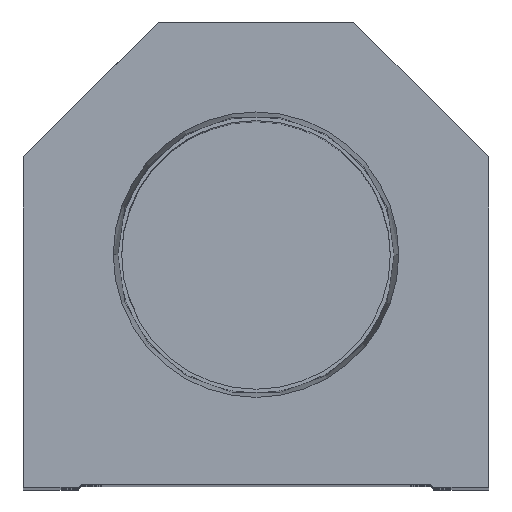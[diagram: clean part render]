
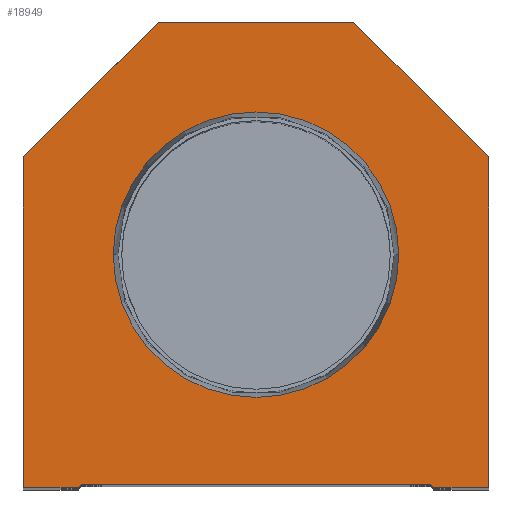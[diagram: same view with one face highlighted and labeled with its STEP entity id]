
A CAD part, top view. The second image highlights one B-rep face of the part: STEP entity #18949.
In plain terms, the highlighted planar face has unit normal (0, 0, 1).
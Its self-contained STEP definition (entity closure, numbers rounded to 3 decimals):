
#15 = CARTESIAN_POINT ( 'NONE',  ( 0., 38.1, 0. ) ) ;
#359 = VECTOR ( 'NONE', #9752, 1000. ) ;
#437 = ORIENTED_EDGE ( 'NONE', *, *, #6802, .T. ) ;
#443 = DIRECTION ( 'NONE',  ( 1., 0., 0. ) ) ;
#518 = CARTESIAN_POINT ( 'NONE',  ( -23.374, 38.1, 0. ) ) ;
#815 = CARTESIAN_POINT ( 'NONE',  ( -29.1, 0., 0. ) ) ;
#938 = LINE ( 'NONE', #18963, #4942 ) ;
#1002 = CARTESIAN_POINT ( 'NONE',  ( 14.55, 14.55, 0. ) ) ;
#1271 = EDGE_CURVE ( 'NONE', #19298, #7976, #2145, .T. ) ;
#1443 = CARTESIAN_POINT ( 'NONE',  ( -38.1, 0., 0. ) ) ;
#1507 = ORIENTED_EDGE ( 'NONE', *, *, #18216, .T. ) ;
#1981 = VERTEX_POINT ( 'NONE', #14295 ) ;
#2145 = LINE ( 'NONE', #8215, #19285 ) ;
#2480 = VECTOR ( 'NONE', #7371, 1000. ) ;
#3041 = VERTEX_POINT ( 'NONE', #13566 ) ;
#3265 = ORIENTED_EDGE ( 'NONE', *, *, #18426, .T. ) ;
#3870 = EDGE_CURVE ( 'NONE', #8238, #9024, #18817, .T. ) ;
#4200 = VERTEX_POINT ( 'NONE', #5078 ) ;
#4548 = LINE ( 'NONE', #1443, #17737 ) ;
#4621 = DIRECTION ( 'NONE',  ( -0.707, -0.707, 0. ) ) ;
#4795 = VERTEX_POINT ( 'NONE', #815 ) ;
#4835 = EDGE_CURVE ( 'NONE', #1981, #17531, #6424, .T. ) ;
#4942 = VECTOR ( 'NONE', #11675, 1000. ) ;
#4987 = CIRCLE ( 'NONE', #19166, 23.374 ) ;
#4996 = LINE ( 'NONE', #10941, #9457 ) ;
#5078 = CARTESIAN_POINT ( 'NONE',  ( 38.1, 0., 0. ) ) ;
#5182 = EDGE_CURVE ( 'NONE', #7976, #13456, #938, .T. ) ;
#5341 = VECTOR ( 'NONE', #13564, 1000. ) ;
#5361 = DIRECTION ( 'NONE',  ( 0., 0., 1. ) ) ;
#5688 = ORIENTED_EDGE ( 'NONE', *, *, #7356, .T. ) ;
#5706 = ORIENTED_EDGE ( 'NONE', *, *, #1271, .T. ) ;
#6141 = EDGE_CURVE ( 'NONE', #17531, #1981, #4987, .T. ) ;
#6424 = CIRCLE ( 'NONE', #7961, 23.374 ) ;
#6802 = EDGE_CURVE ( 'NONE', #18079, #4200, #16814, .T. ) ;
#6835 = ORIENTED_EDGE ( 'NONE', *, *, #3870, .T. ) ;
#7236 = VECTOR ( 'NONE', #4621, 1000. ) ;
#7356 = EDGE_CURVE ( 'NONE', #15404, #4795, #13156, .T. ) ;
#7371 = DIRECTION ( 'NONE',  ( 0.707, -0.707, 0. ) ) ;
#7519 = DIRECTION ( 'NONE',  ( 0., -1., 0. ) ) ;
#7543 = CARTESIAN_POINT ( 'NONE',  ( 29.1, 0., 0. ) ) ;
#7961 = AXIS2_PLACEMENT_3D ( 'NONE', #15, #13249, #16287 ) ;
#7976 = VERTEX_POINT ( 'NONE', #8772 ) ;
#8215 = CARTESIAN_POINT ( 'NONE',  ( 38.1, 54.1, 0. ) ) ;
#8238 = VERTEX_POINT ( 'NONE', #16002 ) ;
#8289 = EDGE_LOOP ( 'NONE', ( #5688, #13877, #6835, #3265, #437, #16366, #5706, #12833, #1507, #16547 ) ) ;
#8563 = LINE ( 'NONE', #1002, #2480 ) ;
#8772 = CARTESIAN_POINT ( 'NONE',  ( 16., 76.2, 0. ) ) ;
#8885 = CARTESIAN_POINT ( 'NONE',  ( 38.1, 54.1, 0. ) ) ;
#8953 = EDGE_LOOP ( 'NONE', ( #14411, #9329 ) ) ;
#9024 = VERTEX_POINT ( 'NONE', #11605 ) ;
#9329 = ORIENTED_EDGE ( 'NONE', *, *, #6141, .F. ) ;
#9457 = VECTOR ( 'NONE', #9749, 1000. ) ;
#9749 = DIRECTION ( 'NONE',  ( 0., 1., 0. ) ) ;
#9752 = DIRECTION ( 'NONE',  ( 1., 0., 0. ) ) ;
#9872 = DIRECTION ( 'NONE',  ( 0., 0., 1. ) ) ;
#9936 = FACE_OUTER_BOUND ( 'NONE', #8289, .T. ) ;
#10113 = PLANE ( 'NONE',  #16435 ) ;
#10670 = CARTESIAN_POINT ( 'NONE',  ( -38.1, 54.1, 0. ) ) ;
#10941 = CARTESIAN_POINT ( 'NONE',  ( 38.1, 0., 0. ) ) ;
#11228 = CARTESIAN_POINT ( 'NONE',  ( -28.6, 0.5, 0. ) ) ;
#11605 = CARTESIAN_POINT ( 'NONE',  ( 28.6, 0.5, 0. ) ) ;
#11675 = DIRECTION ( 'NONE',  ( -1., 0., 0. ) ) ;
#12833 = ORIENTED_EDGE ( 'NONE', *, *, #5182, .T. ) ;
#12950 = CARTESIAN_POINT ( 'NONE',  ( 0., 38.1, 0. ) ) ;
#13013 = DIRECTION ( 'NONE',  ( 1., 0., 0. ) ) ;
#13156 = LINE ( 'NONE', #15265, #13796 ) ;
#13249 = DIRECTION ( 'NONE',  ( 0., 0., 1. ) ) ;
#13385 = VECTOR ( 'NONE', #443, 1000. ) ;
#13456 = VERTEX_POINT ( 'NONE', #18836 ) ;
#13564 = DIRECTION ( 'NONE',  ( 0.707, 0.707, 0. ) ) ;
#13566 = CARTESIAN_POINT ( 'NONE',  ( -38.1, 54.1, 0. ) ) ;
#13796 = VECTOR ( 'NONE', #19113, 1000. ) ;
#13877 = ORIENTED_EDGE ( 'NONE', *, *, #16489, .T. ) ;
#14295 = CARTESIAN_POINT ( 'NONE',  ( 23.374, 38.1, 0. ) ) ;
#14411 = ORIENTED_EDGE ( 'NONE', *, *, #4835, .F. ) ;
#14659 = DIRECTION ( 'NONE',  ( -0.707, 0.707, 0. ) ) ;
#15265 = CARTESIAN_POINT ( 'NONE',  ( -28.6, 0., 0. ) ) ;
#15404 = VERTEX_POINT ( 'NONE', #16598 ) ;
#15899 = DIRECTION ( 'NONE',  ( 1., 0., 0. ) ) ;
#16002 = CARTESIAN_POINT ( 'NONE',  ( -28.6, 0.5, 0. ) ) ;
#16068 = EDGE_CURVE ( 'NONE', #3041, #15404, #4548, .T. ) ;
#16287 = DIRECTION ( 'NONE',  ( 1., 0., 0. ) ) ;
#16366 = ORIENTED_EDGE ( 'NONE', *, *, #17906, .T. ) ;
#16435 = AXIS2_PLACEMENT_3D ( 'NONE', #19267, #5361, #13013 ) ;
#16489 = EDGE_CURVE ( 'NONE', #4795, #8238, #17967, .T. ) ;
#16501 = CARTESIAN_POINT ( 'NONE',  ( -14.55, 14.55, 0. ) ) ;
#16547 = ORIENTED_EDGE ( 'NONE', *, *, #16068, .T. ) ;
#16598 = CARTESIAN_POINT ( 'NONE',  ( -38.1, 0., 0. ) ) ;
#16814 = LINE ( 'NONE', #17102, #13385 ) ;
#16983 = LINE ( 'NONE', #10670, #7236 ) ;
#17102 = CARTESIAN_POINT ( 'NONE',  ( 28.6, 0., 0. ) ) ;
#17531 = VERTEX_POINT ( 'NONE', #518 ) ;
#17737 = VECTOR ( 'NONE', #7519, 1000. ) ;
#17906 = EDGE_CURVE ( 'NONE', #4200, #19298, #4996, .T. ) ;
#17967 = LINE ( 'NONE', #16501, #5341 ) ;
#18079 = VERTEX_POINT ( 'NONE', #7543 ) ;
#18216 = EDGE_CURVE ( 'NONE', #13456, #3041, #16983, .T. ) ;
#18426 = EDGE_CURVE ( 'NONE', #9024, #18079, #8563, .T. ) ;
#18817 = LINE ( 'NONE', #11228, #359 ) ;
#18836 = CARTESIAN_POINT ( 'NONE',  ( -16., 76.2, 0. ) ) ;
#18949 = ADVANCED_FACE ( 'NONE', ( #18978, #9936 ), #10113, .T. ) ;
#18963 = CARTESIAN_POINT ( 'NONE',  ( 16., 76.2, 0. ) ) ;
#18978 = FACE_BOUND ( 'NONE', #8953, .T. ) ;
#19113 = DIRECTION ( 'NONE',  ( 1., 0., 0. ) ) ;
#19166 = AXIS2_PLACEMENT_3D ( 'NONE', #12950, #9872, #15899 ) ;
#19267 = CARTESIAN_POINT ( 'NONE',  ( 0., 0., 0. ) ) ;
#19285 = VECTOR ( 'NONE', #14659, 1000. ) ;
#19298 = VERTEX_POINT ( 'NONE', #8885 ) ;
